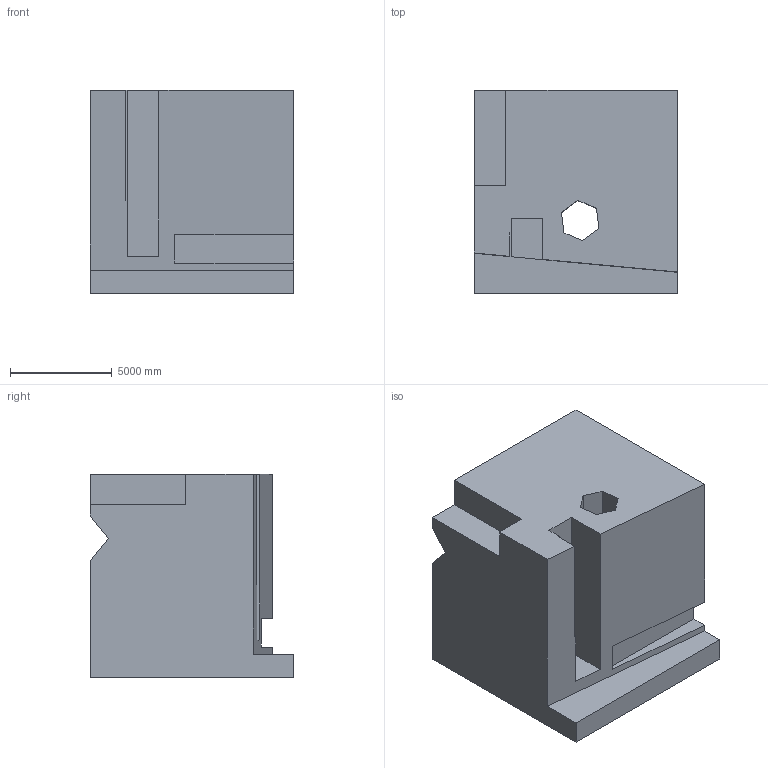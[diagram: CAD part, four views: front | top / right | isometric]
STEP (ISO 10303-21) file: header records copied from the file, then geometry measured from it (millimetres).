
FILE_DESCRIPTION (( 'STEP AP203' ), '1' );
FILE_NAME ('1716.STEP', '2022-08-19T12:00:57', ( 'user' ), ( '' ), 'SwSTEP 2.0', 'SolidWorks 2021', '' );
FILE_SCHEMA (( 'CONFIG_CONTROL_DESIGN' ));
Length unit declared in the file: centimetre
Products named in the file (1): 1716
Bounding box: 10000 x 10000 x 10000 mm (x, y, z)
Volume: 781693745578.2 mm3; surface area: 695983521.2 mm2
Topology: 1 solids, 1 shells, 35 faces, 96 edges, 64 vertices
Faces by surface type: plane 35
Entity records: 1171 total; most frequent: CARTESIAN_POINT 196, ORIENTED_EDGE 192, DIRECTION 168, VECTOR 96, LINE 96, EDGE_CURVE 96, VERTEX_POINT 64, EDGE_LOOP 38
